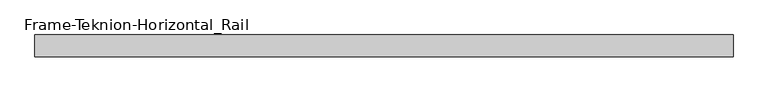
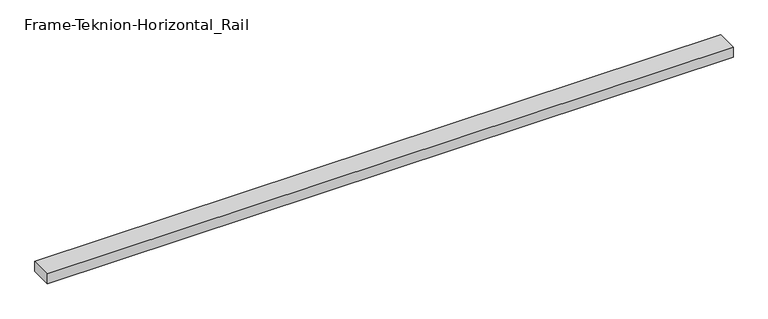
"""IFC4 building model written with IfcOpenShell, lengths in millimetres: proxy geometry, Frame-Teknion-Horizontal_Rail : FPKK."""

from ifc_helpers import new_model, si_unit, frame, origin, place, context, project, spatial, polyline, outline, extrude, source, transform, mapped, element, save


def frame_teknion_horizontal_rail_d3940d10(model_context):
    return source(origin(), model_context, "Body", "SweptSolid", [
        extrude(outline(polyline([(-925.1652344, -29.2199219), (-925.1652344, 29.2199219), (925.1652344, 29.2199219), (925.1652344, -29.2199219), (-925.1652344, -29.2199219)])), frame((0.0, 0.0, -13.9898438), z_axis=(0.0, 0.0, 1.0), x_axis=(1.0, 0.0, 0.0)), (0.0, 0.0, 1.0), 27.9796875),
    ])


if __name__ == "__main__":
    model = new_model("IFC4")
    model_context = context("Model", 3, world=origin())
    ifc_project = project(units=[si_unit("LENGTHUNIT", "METRE", prefix="MILLI")], contexts=[model_context])
    site = spatial("IfcSite", under=ifc_project)
    building = spatial("IfcBuilding", under=site)
    placement = place(None, origin())
    frame_teknion_horizontal_rail_shape = frame_teknion_horizontal_rail_d3940d10(model_context)
    element("IfcBuildingElementProxy", 1, Name="Frame-Teknion-Horizontal_Rail : FPKK", ObjectType="Frame-Teknion-Horizontal_Rail : FPKK", at=placement, inside=building, context=model_context, shape_type="MappedRepresentation", body=[
        mapped(frame_teknion_horizontal_rail_shape, transform((0.0, 0.0, 0.0), x_axis=(1.0, 0.0, 0.0), y_axis=(0.0, 1.0, 0.0), z_axis=(0.0, 0.0, 1.0))),
    ])
    save(model, "model.ifc")
